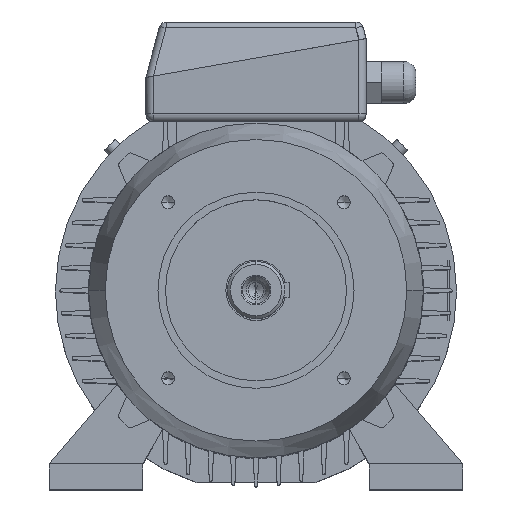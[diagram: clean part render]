
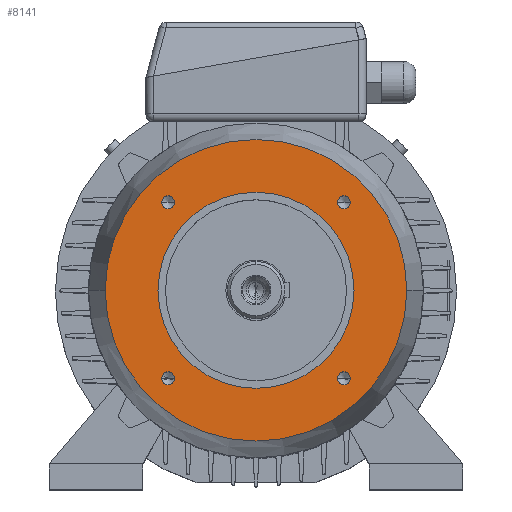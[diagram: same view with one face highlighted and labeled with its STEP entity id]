
A CAD part, top view. The second image highlights one B-rep face of the part: STEP entity #8141.
In plain terms, the highlighted planar face has unit normal (0, 0, 1).
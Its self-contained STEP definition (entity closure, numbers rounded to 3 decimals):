
#65 = CIRCLE ( 'NONE', #68, 100. ) ;
#68 = AXIS2_PLACEMENT_3D ( 'NONE', #69, #70, #71 ) ;
#69 = CARTESIAN_POINT ( 'NONE',  ( 0., 0., 58. ) ) ;
#70 = DIRECTION ( 'NONE',  ( 0., 0., 1. ) ) ;
#71 = DIRECTION ( 'NONE',  ( 1., 0., 0. ) ) ;
#194 = ORIENTED_EDGE ( 'NONE', *, *, #7828, .F. ) ;
#299 = EDGE_LOOP ( 'NONE', ( #194, #7877 ) ) ;
#377 = VERTEX_POINT ( 'NONE', #9615 ) ;
#443 = EDGE_CURVE ( 'NONE', #7292, #4130, #9637, .T. ) ;
#545 = ORIENTED_EDGE ( 'NONE', *, *, #443, .F. ) ;
#776 = EDGE_LOOP ( 'NONE', ( #2513, #7403 ) ) ;
#937 = CIRCLE ( 'NONE', #942, 4.25 ) ;
#942 = AXIS2_PLACEMENT_3D ( 'NONE', #943, #944, #945 ) ;
#943 = CARTESIAN_POINT ( 'NONE',  ( -58.336, 58.336, 58. ) ) ;
#944 = DIRECTION ( 'NONE',  ( 0., 0., 1. ) ) ;
#945 = DIRECTION ( 'NONE',  ( 1., 0., 0. ) ) ;
#1609 = VERTEX_POINT ( 'NONE', #10199 ) ;
#1778 = VERTEX_POINT ( 'NONE', #10281 ) ;
#1815 = EDGE_CURVE ( 'NONE', #1778, #1609, #10288, .T. ) ;
#1878 = FACE_BOUND ( 'NONE', #299, .T. ) ;
#1879 = FACE_BOUND ( 'NONE', #8631, .T. ) ;
#1880 = FACE_BOUND ( 'NONE', #7705, .T. ) ;
#1881 = FACE_BOUND ( 'NONE', #4685, .T. ) ;
#1882 = FACE_OUTER_BOUND ( 'NONE', #776, .T. ) ;
#1883 = FACE_BOUND ( 'NONE', #11058, .T. ) ;
#1889 = PLANE ( 'NONE',  #1890 ) ;
#1890 = AXIS2_PLACEMENT_3D ( 'NONE', #1891, #1892, #1893 ) ;
#1891 = CARTESIAN_POINT ( 'NONE',  ( 0., 100., 58. ) ) ;
#1892 = DIRECTION ( 'NONE',  ( 0., 0., -1. ) ) ;
#1893 = DIRECTION ( 'NONE',  ( -1., 0., 0. ) ) ;
#1931 = CARTESIAN_POINT ( 'NONE',  ( 54.086, -58.336, 58. ) ) ;
#2252 = CIRCLE ( 'NONE', #2253, 4.25 ) ;
#2253 = AXIS2_PLACEMENT_3D ( 'NONE', #2254, #2255, #2256 ) ;
#2254 = CARTESIAN_POINT ( 'NONE',  ( 58.336, 58.336, 58. ) ) ;
#2255 = DIRECTION ( 'NONE',  ( 0., 0., 1. ) ) ;
#2256 = DIRECTION ( 'NONE',  ( 1., 0., 0. ) ) ;
#2513 = ORIENTED_EDGE ( 'NONE', *, *, #7440, .T. ) ;
#3424 = CARTESIAN_POINT ( 'NONE',  ( -62.586, 58.336, 58. ) ) ;
#3769 = EDGE_CURVE ( 'NONE', #8161, #377, #11342, .T. ) ;
#3857 = EDGE_CURVE ( 'NONE', #4130, #7292, #11423, .T. ) ;
#4130 = VERTEX_POINT ( 'NONE', #11555 ) ;
#4495 = ORIENTED_EDGE ( 'NONE', *, *, #3857, .F. ) ;
#4555 = VERTEX_POINT ( 'NONE', #11732 ) ;
#4643 = EDGE_CURVE ( 'NONE', #377, #8161, #11779, .T. ) ;
#4685 = EDGE_LOOP ( 'NONE', ( #4495, #545 ) ) ;
#4784 = ORIENTED_EDGE ( 'NONE', *, *, #4643, .F. ) ;
#5695 = ORIENTED_EDGE ( 'NONE', *, *, #1815, .F. ) ;
#5803 = VERTEX_POINT ( 'NONE', #12372 ) ;
#5864 = CARTESIAN_POINT ( 'NONE',  ( 62.586, 58.336, 58. ) ) ;
#6012 = EDGE_CURVE ( 'NONE', #8541, #5803, #12510, .T. ) ;
#6221 = CARTESIAN_POINT ( 'NONE',  ( 100., 0., 58. ) ) ;
#6893 = CARTESIAN_POINT ( 'NONE',  ( -100., 0., 58. ) ) ;
#7003 = EDGE_CURVE ( 'NONE', #1609, #1778, #13006, .T. ) ;
#7100 = ORIENTED_EDGE ( 'NONE', *, *, #7003, .F. ) ;
#7292 = VERTEX_POINT ( 'NONE', #13413 ) ;
#7321 = EDGE_CURVE ( 'NONE', #10742, #4555, #13466, .T. ) ;
#7357 = ORIENTED_EDGE ( 'NONE', *, *, #7321, .F. ) ;
#7403 = ORIENTED_EDGE ( 'NONE', *, *, #7521, .T. ) ;
#7440 = EDGE_CURVE ( 'NONE', #12679, #11429, #13751, .T. ) ;
#7521 = EDGE_CURVE ( 'NONE', #11429, #12679, #65, .T. ) ;
#7539 = ORIENTED_EDGE ( 'NONE', *, *, #8310, .F. ) ;
#7705 = EDGE_LOOP ( 'NONE', ( #7100, #5695 ) ) ;
#7742 = ORIENTED_EDGE ( 'NONE', *, *, #3769, .F. ) ;
#7828 = EDGE_CURVE ( 'NONE', #5803, #8541, #937, .T. ) ;
#7877 = ORIENTED_EDGE ( 'NONE', *, *, #6012, .F. ) ;
#8141 = ADVANCED_FACE ( 'NONE', ( #1878, #1879, #1880, #1881, #1882, #1883 ), #1889, .F. ) ;
#8161 = VERTEX_POINT ( 'NONE', #1931 ) ;
#8310 = EDGE_CURVE ( 'NONE', #4555, #10742, #2252, .T. ) ;
#8541 = VERTEX_POINT ( 'NONE', #3424 ) ;
#8631 = EDGE_LOOP ( 'NONE', ( #4784, #7742 ) ) ;
#9615 = CARTESIAN_POINT ( 'NONE',  ( 62.586, -58.336, 58. ) ) ;
#9637 = CIRCLE ( 'NONE', #9638, 65. ) ;
#9638 = AXIS2_PLACEMENT_3D ( 'NONE', #9639, #9640, #9641 ) ;
#9639 = CARTESIAN_POINT ( 'NONE',  ( 0., 0., 58. ) ) ;
#9640 = DIRECTION ( 'NONE',  ( 0., 0., 1. ) ) ;
#9641 = DIRECTION ( 'NONE',  ( 1., 0., 0. ) ) ;
#10199 = CARTESIAN_POINT ( 'NONE',  ( -54.086, -58.336, 58. ) ) ;
#10281 = CARTESIAN_POINT ( 'NONE',  ( -62.586, -58.336, 58. ) ) ;
#10288 = CIRCLE ( 'NONE', #10289, 4.25 ) ;
#10289 = AXIS2_PLACEMENT_3D ( 'NONE', #10290, #10291, #10292 ) ;
#10290 = CARTESIAN_POINT ( 'NONE',  ( -58.336, -58.336, 58. ) ) ;
#10291 = DIRECTION ( 'NONE',  ( 0., 0., 1. ) ) ;
#10292 = DIRECTION ( 'NONE',  ( 1., 0., 0. ) ) ;
#10742 = VERTEX_POINT ( 'NONE', #5864 ) ;
#11058 = EDGE_LOOP ( 'NONE', ( #7357, #7539 ) ) ;
#11342 = CIRCLE ( 'NONE', #11343, 4.25 ) ;
#11343 = AXIS2_PLACEMENT_3D ( 'NONE', #11344, #11345, #11346 ) ;
#11344 = CARTESIAN_POINT ( 'NONE',  ( 58.336, -58.336, 58. ) ) ;
#11345 = DIRECTION ( 'NONE',  ( 0., 0., 1. ) ) ;
#11346 = DIRECTION ( 'NONE',  ( 1., 0., 0. ) ) ;
#11423 = CIRCLE ( 'NONE', #11424, 65. ) ;
#11424 = AXIS2_PLACEMENT_3D ( 'NONE', #11425, #11426, #11427 ) ;
#11425 = CARTESIAN_POINT ( 'NONE',  ( 0., 0., 58. ) ) ;
#11426 = DIRECTION ( 'NONE',  ( 0., 0., 1. ) ) ;
#11427 = DIRECTION ( 'NONE',  ( 1., 0., 0. ) ) ;
#11429 = VERTEX_POINT ( 'NONE', #6221 ) ;
#11555 = CARTESIAN_POINT ( 'NONE',  ( 65., 0., 58. ) ) ;
#11732 = CARTESIAN_POINT ( 'NONE',  ( 54.086, 58.336, 58. ) ) ;
#11779 = CIRCLE ( 'NONE', #11780, 4.25 ) ;
#11780 = AXIS2_PLACEMENT_3D ( 'NONE', #11781, #11782, #11787 ) ;
#11781 = CARTESIAN_POINT ( 'NONE',  ( 58.336, -58.336, 58. ) ) ;
#11782 = DIRECTION ( 'NONE',  ( 0., 0., 1. ) ) ;
#11787 = DIRECTION ( 'NONE',  ( 1., 0., 0. ) ) ;
#12372 = CARTESIAN_POINT ( 'NONE',  ( -54.086, 58.336, 58. ) ) ;
#12510 = CIRCLE ( 'NONE', #12511, 4.25 ) ;
#12511 = AXIS2_PLACEMENT_3D ( 'NONE', #12512, #12513, #12520 ) ;
#12512 = CARTESIAN_POINT ( 'NONE',  ( -58.336, 58.336, 58. ) ) ;
#12513 = DIRECTION ( 'NONE',  ( 0., 0., 1. ) ) ;
#12520 = DIRECTION ( 'NONE',  ( 1., 0., 0. ) ) ;
#12679 = VERTEX_POINT ( 'NONE', #6893 ) ;
#13006 = CIRCLE ( 'NONE', #13007, 4.25 ) ;
#13007 = AXIS2_PLACEMENT_3D ( 'NONE', #13008, #13009, #13010 ) ;
#13008 = CARTESIAN_POINT ( 'NONE',  ( -58.336, -58.336, 58. ) ) ;
#13009 = DIRECTION ( 'NONE',  ( 0., 0., 1. ) ) ;
#13010 = DIRECTION ( 'NONE',  ( 1., 0., 0. ) ) ;
#13413 = CARTESIAN_POINT ( 'NONE',  ( -65., 0., 58. ) ) ;
#13466 = CIRCLE ( 'NONE', #13470, 4.25 ) ;
#13470 = AXIS2_PLACEMENT_3D ( 'NONE', #13471, #13472, #13473 ) ;
#13471 = CARTESIAN_POINT ( 'NONE',  ( 58.336, 58.336, 58. ) ) ;
#13472 = DIRECTION ( 'NONE',  ( 0., 0., 1. ) ) ;
#13473 = DIRECTION ( 'NONE',  ( 1., 0., 0. ) ) ;
#13751 = CIRCLE ( 'NONE', #13752, 100. ) ;
#13752 = AXIS2_PLACEMENT_3D ( 'NONE', #13753, #13754, #13755 ) ;
#13753 = CARTESIAN_POINT ( 'NONE',  ( 0., 0., 58. ) ) ;
#13754 = DIRECTION ( 'NONE',  ( 0., 0., 1. ) ) ;
#13755 = DIRECTION ( 'NONE',  ( 1., 0., 0. ) ) ;
